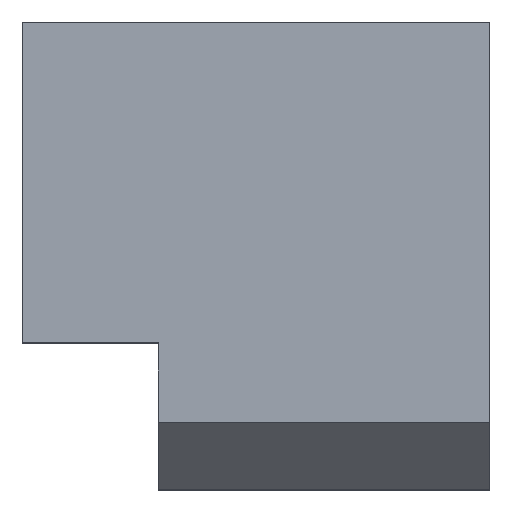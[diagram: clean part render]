
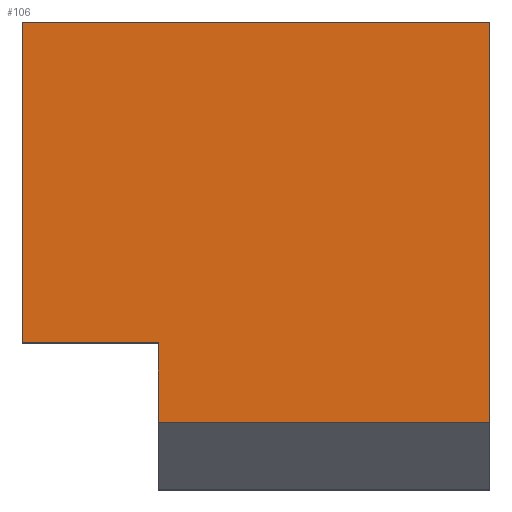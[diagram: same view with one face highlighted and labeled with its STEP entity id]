
A CAD part, top view. The second image highlights one B-rep face of the part: STEP entity #106.
In plain terms, the highlighted planar face has unit normal (0, 0, 1).
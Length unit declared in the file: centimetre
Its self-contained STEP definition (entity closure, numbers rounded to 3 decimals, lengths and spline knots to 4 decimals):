
#4 = CARTESIAN_POINT ( 'NONE',  ( 1000., 143.5142, 1000. ) ) ;
#11 = DIRECTION ( 'NONE',  ( -1., 0., 0. ) ) ;
#13 = DIRECTION ( 'NONE',  ( 0., -1., 0. ) ) ;
#21 = CARTESIAN_POINT ( 'NONE',  ( 1000., 143.5142, 1000. ) ) ;
#46 = VERTEX_POINT ( 'NONE', #182 ) ;
#52 = ORIENTED_EDGE ( 'NONE', *, *, #235, .F. ) ;
#62 = CARTESIAN_POINT ( 'NONE',  ( 0., 1000., 1000. ) ) ;
#67 = LINE ( 'NONE', #21, #173 ) ;
#73 = AXIS2_PLACEMENT_3D ( 'NONE', #155, #90, #210 ) ;
#78 = VERTEX_POINT ( 'NONE', #206 ) ;
#86 = CARTESIAN_POINT ( 'NONE',  ( 291.221, 143.5142, 1000. ) ) ;
#90 = DIRECTION ( 'NONE',  ( 0., 0., 1. ) ) ;
#92 = DIRECTION ( 'NONE',  ( 0., 1., 0. ) ) ;
#93 = CARTESIAN_POINT ( 'NONE',  ( 291.221, 0., 1000. ) ) ;
#106 = ADVANCED_FACE ( 'NONE', ( #261 ), #350, .T. ) ;
#117 = EDGE_CURVE ( 'NONE', #165, #78, #128, .T. ) ;
#118 = CARTESIAN_POINT ( 'NONE',  ( 0., 1000., 1000. ) ) ;
#122 = EDGE_CURVE ( 'NONE', #368, #192, #126, .T. ) ;
#126 = LINE ( 'NONE', #93, #129 ) ;
#128 = LINE ( 'NONE', #62, #140 ) ;
#129 = VECTOR ( 'NONE', #324, 100. ) ;
#134 = ORIENTED_EDGE ( 'NONE', *, *, #122, .F. ) ;
#140 = VECTOR ( 'NONE', #11, 100. ) ;
#147 = VECTOR ( 'NONE', #194, 100. ) ;
#155 = CARTESIAN_POINT ( 'NONE',  ( 0., 0., 1000. ) ) ;
#156 = EDGE_CURVE ( 'NONE', #78, #46, #271, .T. ) ;
#161 = VERTEX_POINT ( 'NONE', #4 ) ;
#162 = ORIENTED_EDGE ( 'NONE', *, *, #237, .T. ) ;
#165 = VERTEX_POINT ( 'NONE', #231 ) ;
#167 = CARTESIAN_POINT ( 'NONE',  ( 291.221, 313.0632, 1000. ) ) ;
#172 = ORIENTED_EDGE ( 'NONE', *, *, #117, .T. ) ;
#173 = VECTOR ( 'NONE', #222, 100. ) ;
#178 = VECTOR ( 'NONE', #92, 100. ) ;
#182 = CARTESIAN_POINT ( 'NONE',  ( 0., 313.0632, 1000. ) ) ;
#190 = CARTESIAN_POINT ( 'NONE',  ( 1000., 1000., 1000. ) ) ;
#192 = VERTEX_POINT ( 'NONE', #167 ) ;
#194 = DIRECTION ( 'NONE',  ( -1., 0., 0. ) ) ;
#198 = ORIENTED_EDGE ( 'NONE', *, *, #156, .T. ) ;
#205 = LINE ( 'NONE', #190, #178 ) ;
#206 = CARTESIAN_POINT ( 'NONE',  ( 0., 1000., 1000. ) ) ;
#210 = DIRECTION ( 'NONE',  ( 1., 0., 0. ) ) ;
#222 = DIRECTION ( 'NONE',  ( 1., 0., 0. ) ) ;
#227 = EDGE_LOOP ( 'NONE', ( #52, #134, #162, #330, #172, #198 ) ) ;
#231 = CARTESIAN_POINT ( 'NONE',  ( 1000., 1000., 1000. ) ) ;
#235 = EDGE_CURVE ( 'NONE', #192, #46, #278, .T. ) ;
#237 = EDGE_CURVE ( 'NONE', #368, #161, #67, .T. ) ;
#261 = FACE_OUTER_BOUND ( 'NONE', #227, .T. ) ;
#271 = LINE ( 'NONE', #118, #345 ) ;
#275 = CARTESIAN_POINT ( 'NONE',  ( 291.221, 313.0632, 1000. ) ) ;
#278 = LINE ( 'NONE', #275, #147 ) ;
#324 = DIRECTION ( 'NONE',  ( 0., 1., 0. ) ) ;
#330 = ORIENTED_EDGE ( 'NONE', *, *, #367, .T. ) ;
#345 = VECTOR ( 'NONE', #13, 100. ) ;
#350 = PLANE ( 'NONE',  #73 ) ;
#367 = EDGE_CURVE ( 'NONE', #161, #165, #205, .T. ) ;
#368 = VERTEX_POINT ( 'NONE', #86 ) ;
